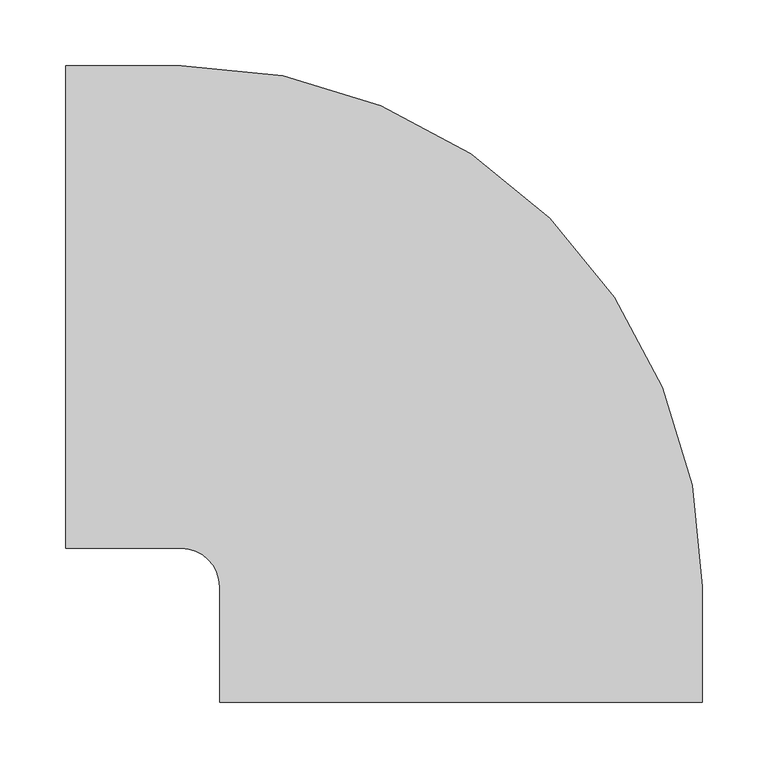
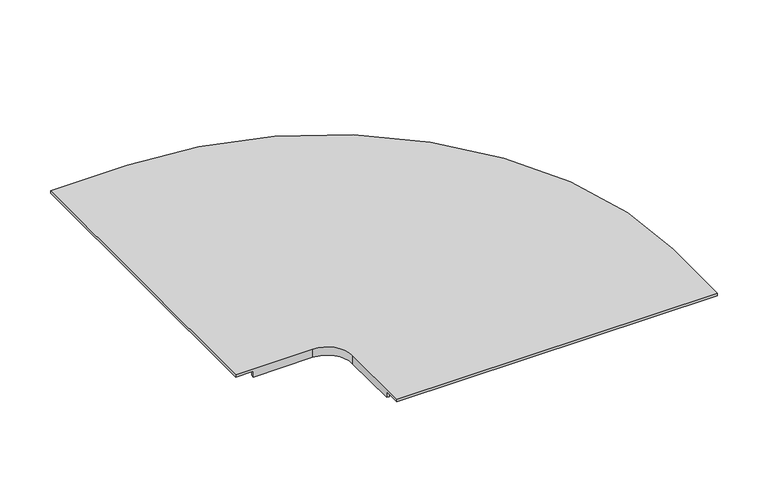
"""IFC4 building model written with IfcOpenShell, lengths in millimetres: cable carrier fitting geometry, CCT_Hyperline_FBTR-ELB90-CVR_Крышка на горизонтальный изгиб на 90°пластиковый : Крышка на горизонтальный изгиб на 90° пластиковый."""

from ifc_helpers import new_model, si_unit, frame, origin, place, context, project, spatial, polyline, circle_curve, source, transform, mapped, element, save
from ifc_brep_helpers import plane_surface, cylinder_surface, revolved_surface, advanced_brep


def cable_carrier_fitting_c29da355(model_context):
    return source(origin(), model_context, "Body", "AdvancedBrep", [
        advanced_brep(
        [(-209.2249258, -19.9441929, 53.0), (-209.2249258, 346.0558071, 53.0), (-209.2249258, 346.0558071, 50.0), (-209.2249258, -19.9441929, 50.0), (-121.7249258, -19.9441929, 53.0), (-92.7249258, -48.9441929, 53.0), (-92.7249258, -136.4441929, 53.0), (273.2750742, -136.4441929, 53.0), (273.2750742, -48.9441929, 53.0), (-121.7249258, 346.0558071, 53.0), (-121.7249258, 343.0558071, 50.0), (270.2750742, -48.9441929, 50.0), (270.2750742, -116.4441929, 50.0), (273.2750742, -116.4441929, 50.0), (273.2750742, -136.4441929, 50.0), (-92.7249258, -136.4441929, 50.0), (-92.7249258, -116.4441929, 50.0), (-89.7249258, -116.4441929, 50.0), (-89.7249258, -48.9441929, 50.0), (-121.7249258, -16.9441929, 50.0), (-189.2249258, -16.9441929, 50.0), (-189.2249258, -19.9441929, 50.0), (-189.2249258, 346.0558071, 50.0), (-189.2249258, 343.0558071, 50.0), (-121.7249258, -16.9441929, 43.0), (-189.2249258, -16.9441929, 43.0), (-89.7249258, -48.9441929, 43.0), (-89.7249258, -116.4441929, 43.0), (-92.7249258, -116.4441929, 43.0), (-92.7249258, -48.9441929, 43.0), (-121.7249258, -19.9441929, 43.0), (-189.2249258, -19.9441929, 43.0), (-121.7249258, 346.0558071, 43.0), (-189.2249258, 346.0558071, 43.0), (273.2750742, -48.9441929, 43.0), (273.2750742, -116.4441929, 43.0), (270.2750742, -116.4441929, 43.0), (270.2750742, -48.9441929, 43.0), (-121.7249258, 343.0558071, 43.0), (-189.2249258, 343.0558071, 43.0)],
        [
            (0, 1),
            (1, 2),
            (2, 3),
            (3, 0),
            (0, 4),
            (4, 5, circle_curve(frame((-121.7249258, -48.9441929, 53.0), z_axis=(0.0, 0.0, -1.0), x_axis=(0.0, 1.0, 0.0)), 29.0)),
            (5, 6),
            (6, 7),
            (7, 8),
            (8, 9, circle_curve(frame((-121.7249258, -48.9441929, 53.0), z_axis=(0.0, 0.0, 1.0), x_axis=(0.0, 1.0, 0.0)), 395.0)),
            (9, 1),
            (10, 11, circle_curve(frame((-121.7249258, -48.9441929, 50.0), z_axis=(0.0, 0.0, -1.0), x_axis=(0.0, 1.0, 0.0)), 392.0)),
            (11, 12),
            (12, 13),
            (13, 14),
            (14, 15),
            (15, 16),
            (16, 17),
            (17, 18),
            (18, 19, circle_curve(frame((-121.7249258, -48.9441929, 50.0), z_axis=(0.0, 0.0, 1.0), x_axis=(0.0, 1.0, 0.0)), 32.0)),
            (19, 20),
            (20, 21),
            (21, 3),
            (2, 22),
            (22, 23),
            (23, 10),
            (19, 24),
            (24, 25),
            (25, 20),
            (24, 26, circle_curve(frame((-121.7249258, -48.9441929, 43.0), z_axis=(0.0, 0.0, -1.0), x_axis=(0.0, 1.0, 0.0)), 32.0)),
            (26, 27),
            (27, 28),
            (28, 29),
            (29, 30, circle_curve(frame((-121.7249258, -48.9441929, 43.0), z_axis=(0.0, 0.0, 1.0), x_axis=(0.0, 1.0, 0.0)), 29.0)),
            (30, 31),
            (31, 25),
            (21, 31),
            (30, 4),
            (18, 26),
            (29, 5),
            (6, 15),
            (14, 7),
            (17, 27),
            (28, 16),
            (9, 32),
            (32, 33),
            (33, 22),
            (32, 34, circle_curve(frame((-121.7249258, -48.9441929, 43.0), z_axis=(0.0, 0.0, -1.0), x_axis=(0.0, 1.0, 0.0)), 395.0)),
            (34, 35),
            (35, 36),
            (36, 37),
            (37, 38, circle_curve(frame((-121.7249258, -48.9441929, 43.0), z_axis=(0.0, 0.0, 1.0), x_axis=(0.0, 1.0, 0.0)), 392.0)),
            (38, 39),
            (39, 33),
            (38, 10),
            (23, 39),
            (8, 34),
            (37, 11),
            (13, 35),
            (36, 12),
        ],
        [
            plane_surface(frame((-209.2249258, -16.9441929, 25.0), z_axis=(-1.0, 0.0, 0.0), x_axis=(0.0, 0.0, 1.0))),
            plane_surface(frame((-209.2249258, -19.9441929, 53.0), z_axis=(0.0, 0.0, 1.0), x_axis=(1.0, 0.0, 0.0))),
            plane_surface(frame((-209.2249258, 343.0558071, 50.0), z_axis=(0.0, 0.0, -1.0), x_axis=(1.0, 0.0, 0.0))),
            plane_surface(frame((-209.2249258, -16.9441929, 50.0), z_axis=(0.0, 1.0, 0.0), x_axis=(1.0, 0.0, 0.0))),
            plane_surface(frame((-209.2249258, -16.9441929, 43.0), z_axis=(0.0, 0.0, -1.0), x_axis=(1.0, 0.0, 0.0))),
            plane_surface(frame((-209.2249258, -19.9441929, 43.0), z_axis=(0.0, -1.0, 0.0), x_axis=(1.0, 0.0, 0.0))),
            cylinder_surface(frame((-121.7249258, -48.9441929, 25.0), z_axis=(0.0, 0.0, -1.0), x_axis=(0.0, 1.0, 0.0)), 32.0),
            revolved_surface(polyline([(-121.7249258, -19.944192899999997, 43.0), (-121.7249258, -19.944192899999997, 53.0)]), (-121.7249258, -48.9441929, 25.0), (0.0, 0.0, -1.0)),
            plane_surface(frame((-89.7249258, -136.4441929, 25.0), z_axis=(0.0, -1.0, 0.0), x_axis=(0.0, 0.0, 1.0))),
            plane_surface(frame((-89.7249258, -48.9441929, 50.0), z_axis=(1.0, 0.0, 0.0), x_axis=(0.0, -1.0, 0.0))),
            plane_surface(frame((-92.7249258, -48.9441929, 43.0), z_axis=(-1.0, 0.0, 0.0), x_axis=(0.0, -1.0, 0.0))),
            plane_surface(frame((-209.2249258, 346.0558071, 53.0), z_axis=(0.0, 1.0, 0.0), x_axis=(1.0, 0.0, 0.0))),
            plane_surface(frame((-209.2249258, 346.0558071, 43.0), z_axis=(0.0, 0.0, -1.0), x_axis=(1.0, 0.0, 0.0))),
            plane_surface(frame((-209.2249258, 343.0558071, 43.0), z_axis=(0.0, -1.0, 0.0), x_axis=(1.0, 0.0, 0.0))),
            cylinder_surface(frame((-121.7249258, -48.9441929, 25.0), z_axis=(0.0, 0.0, -1.0), x_axis=(0.0, 1.0, 0.0)), 395.0),
            revolved_surface(polyline([(-121.7249258, 343.0558071, 43.0), (-121.7249258, 343.0558071, 50.0)]), (-121.7249258, -48.9441929, 25.0), (0.0, 0.0, -1.0)),
            plane_surface(frame((273.2750742, -48.9441929, 53.0), z_axis=(1.0, 0.0, 0.0), x_axis=(0.0, -1.0, 0.0))),
            plane_surface(frame((270.2750742, -48.9441929, 43.0), z_axis=(-1.0, 0.0, 0.0), x_axis=(0.0, -1.0, 0.0))),
            plane_surface(frame((-189.2249258, -225.5092401, 43.0), z_axis=(-1.0, 0.0, 0.0), x_axis=(0.0, 1.0, 0.0))),
            plane_surface(frame((-218.796213, -116.4441929, 50.0), z_axis=(0.0, -1.0, 0.0), x_axis=(1.0, 0.0, 0.0))),
        ],
        [
            (0, [[1, 2, 3, 4]]),
            (1, [[-1, 5, 6, 7, 8, 9, 10, 11]]),
            (2, [[12, 13, 14, 15, 16, 17, 18, 19, 20, 21, 22, 23, -3, 24, 25, 26]]),
            (3, [[27, 28, 29, -21]]),
            (4, [[30, 31, 32, 33, 34, 35, 36, -28]]),
            (5, [[-5, -4, -23, 37, -35, 38]]),
            (6, [[-20, 39, -30, -27]]),
            (7, [[-6, -38, -34, 40]]),
            (8, [[-8, 41, -16, 42]]),
            (9, [[-39, -19, 43, -31]]),
            (10, [[-7, -40, -33, 44, -17, -41]]),
            (11, [[-11, 45, 46, 47, -24, -2]]),
            (12, [[48, 49, 50, 51, 52, 53, 54, -46]]),
            (13, [[55, -26, 56, -53]]),
            (14, [[-10, 57, -48, -45]]),
            (15, [[-12, -55, -52, 58]]),
            (16, [[-9, -42, -15, 59, -49, -57]]),
            (17, [[-58, -51, 60, -13]]),
            (18, [[-22, -29, -36, -37]]),
            (18, [[-25, -47, -54, -56]]),
            (19, [[-14, -60, -50, -59]]),
            (19, [[-18, -44, -32, -43]]),
        ],
    ),
    ])


if __name__ == "__main__":
    model = new_model("IFC4")
    model_context = context("Model", 3, world=origin())
    ifc_project = project(units=[si_unit("LENGTHUNIT", "METRE", prefix="MILLI")], contexts=[model_context])
    site = spatial("IfcSite", under=ifc_project)
    building = spatial("IfcBuilding", under=site)
    placement = place(None, origin())
    cable_carrier_fitting_shape = cable_carrier_fitting_c29da355(model_context)
    element("IfcCableCarrierFitting", 1, ObjectType="CCT_Hyperline_FBTR-ELB90-CVR_Крышка на горизонтальный изгиб на 90°пластиковый : Крышка на горизонтальный изгиб на 90° пластиковый", at=placement, inside=building, context=model_context, shape_type="MappedRepresentation", body=[
        mapped(cable_carrier_fitting_shape, transform((0.0, 0.0, 0.0), x_axis=(1.0, 0.0, 0.0), y_axis=(0.0, 1.0, 0.0), z_axis=(0.0, 0.0, 1.0))),
    ])
    save(model, "model.ifc")
